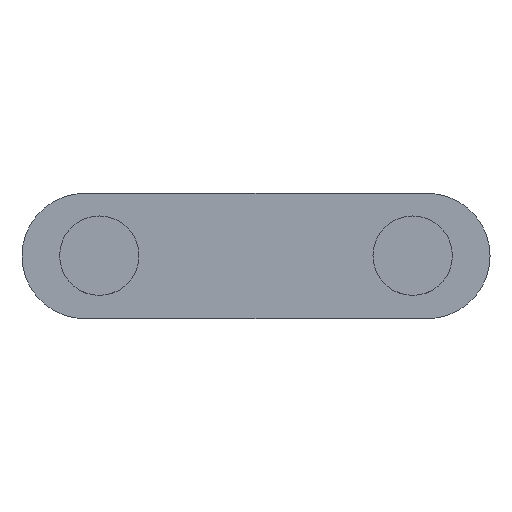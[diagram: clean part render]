
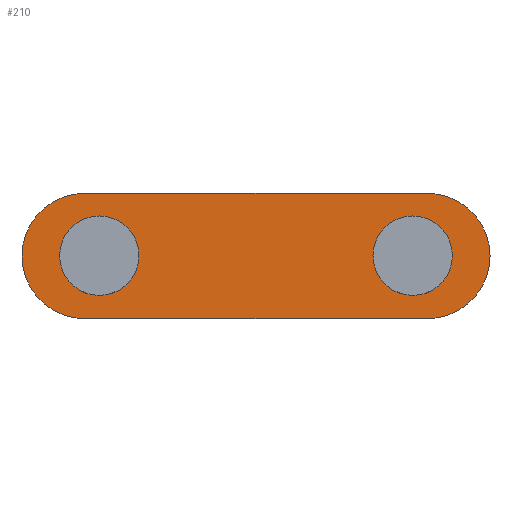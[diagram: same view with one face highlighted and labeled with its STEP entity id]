
A CAD part, top view. The second image highlights one B-rep face of the part: STEP entity #210.
In plain terms, the highlighted planar face has unit normal (0, 0, 1).
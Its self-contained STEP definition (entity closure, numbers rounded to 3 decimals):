
#39=CARTESIAN_POINT('',(41.,0.,2.2));
#40=DIRECTION('',(0.,0.,1.));
#41=DIRECTION('',(0.,-1.,0.));
#42=AXIS2_PLACEMENT_3D('',#39,#40,#41);
#44=DIRECTION('',(1.,0.,0.));
#45=VECTOR('',#44,82.);
#46=CARTESIAN_POINT('',(-41.,-15.,2.2));
#47=LINE('',#46,#45);
#48=CARTESIAN_POINT('',(-41.,0.,2.2));
#49=DIRECTION('',(0.,0.,1.));
#50=DIRECTION('',(0.,1.,0.));
#51=AXIS2_PLACEMENT_3D('',#48,#49,#50);
#53=DIRECTION('',(-1.,0.,0.));
#54=VECTOR('',#53,82.);
#55=CARTESIAN_POINT('',(41.,15.,2.2));
#56=LINE('',#55,#54);
#57=CARTESIAN_POINT('',(-37.5,0.,2.2));
#58=DIRECTION('',(0.,0.,1.));
#59=DIRECTION('',(1.,0.,0.));
#60=AXIS2_PLACEMENT_3D('',#57,#58,#59);
#62=CARTESIAN_POINT('',(-37.5,0.,2.2));
#63=DIRECTION('',(0.,0.,1.));
#64=DIRECTION('',(-1.,0.,0.));
#65=AXIS2_PLACEMENT_3D('',#62,#63,#64);
#67=CARTESIAN_POINT('',(37.5,0.,2.2));
#68=DIRECTION('',(0.,0.,1.));
#69=DIRECTION('',(1.,0.,0.));
#70=AXIS2_PLACEMENT_3D('',#67,#68,#69);
#72=CARTESIAN_POINT('',(37.5,0.,2.2));
#73=DIRECTION('',(0.,0.,1.));
#74=DIRECTION('',(-1.,0.,0.));
#75=AXIS2_PLACEMENT_3D('',#72,#73,#74);
#109=CARTESIAN_POINT('',(41.,-15.,2.2));
#110=CARTESIAN_POINT('',(41.,15.,2.2));
#111=VERTEX_POINT('',#109);
#112=VERTEX_POINT('',#110);
#121=CARTESIAN_POINT('',(-41.,15.,2.2));
#122=VERTEX_POINT('',#121);
#123=CARTESIAN_POINT('',(-41.,-15.,2.2));
#124=VERTEX_POINT('',#123);
#133=CARTESIAN_POINT('',(-35.25,0.,2.2));
#134=CARTESIAN_POINT('',(-39.75,0.,2.2));
#135=VERTEX_POINT('',#133);
#136=VERTEX_POINT('',#134);
#137=CARTESIAN_POINT('',(39.75,0.,2.2));
#138=CARTESIAN_POINT('',(35.25,0.,2.2));
#139=VERTEX_POINT('',#137);
#140=VERTEX_POINT('',#138);
#184=CARTESIAN_POINT('',(0.,0.,2.2));
#185=DIRECTION('',(0.,0.,1.));
#186=DIRECTION('',(1.,0.,0.));
#187=AXIS2_PLACEMENT_3D('',#184,#185,#186);
#188=PLANE('',#187);
#189=ORIENTED_EDGE('',*,*,#174,.F.);
#191=ORIENTED_EDGE('',*,*,#190,.F.);
#193=ORIENTED_EDGE('',*,*,#192,.F.);
#195=ORIENTED_EDGE('',*,*,#194,.F.);
#196=EDGE_LOOP('',(#189,#191,#193,#195));
#197=FACE_OUTER_BOUND('',#196,.F.);
#199=ORIENTED_EDGE('',*,*,#198,.T.);
#201=ORIENTED_EDGE('',*,*,#200,.T.);
#202=EDGE_LOOP('',(#199,#201));
#203=FACE_BOUND('',#202,.F.);
#205=ORIENTED_EDGE('',*,*,#204,.T.);
#207=ORIENTED_EDGE('',*,*,#206,.T.);
#208=EDGE_LOOP('',(#205,#207));
#209=FACE_BOUND('',#208,.F.);
#210=ADVANCED_FACE('',(#197,#203,#209),#188,.T.);
#43=CIRCLE('',#42,15.);
#52=CIRCLE('',#51,15.);
#61=CIRCLE('',#60,2.25);
#66=CIRCLE('',#65,2.25);
#71=CIRCLE('',#70,2.25);
#76=CIRCLE('',#75,2.25);
#174=EDGE_CURVE('',#111,#112,#43,.T.);
#190=EDGE_CURVE('',#124,#111,#47,.T.);
#192=EDGE_CURVE('',#122,#124,#52,.T.);
#194=EDGE_CURVE('',#112,#122,#56,.T.);
#198=EDGE_CURVE('',#135,#136,#61,.T.);
#200=EDGE_CURVE('',#136,#135,#66,.T.);
#204=EDGE_CURVE('',#139,#140,#71,.T.);
#206=EDGE_CURVE('',#140,#139,#76,.T.);
